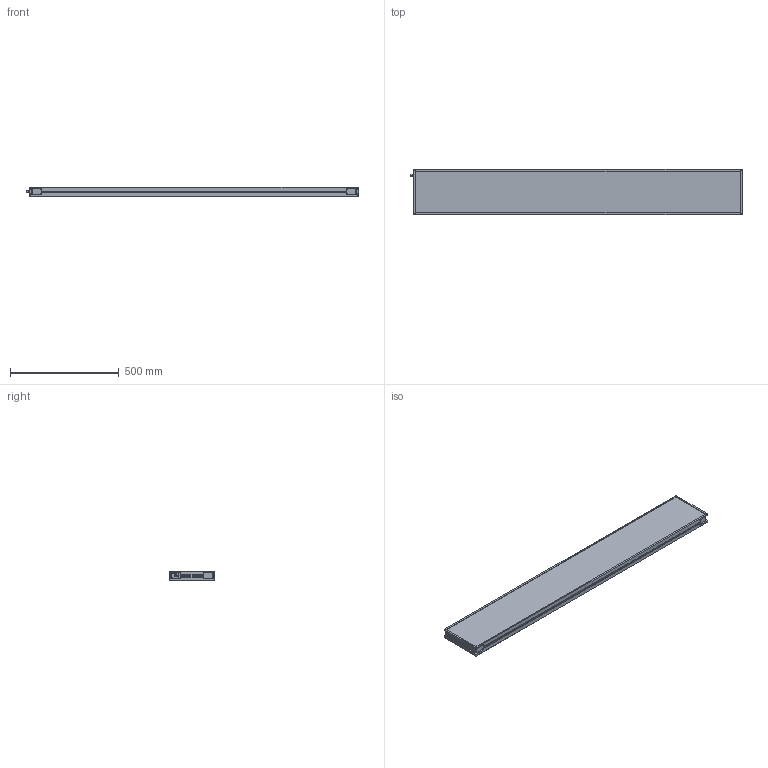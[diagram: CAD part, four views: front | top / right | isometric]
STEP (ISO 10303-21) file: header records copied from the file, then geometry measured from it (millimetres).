
FILE_DESCRIPTION (( 'STEP AP214' ), '1' );
FILE_NAME ('MBACK-xxxx-xxx-M1_CLIENT200x1500.STEP', '2022-03-31T15:57:49', ( '' ), ( '' ), 'SwSTEP 2.0', 'SolidWorks 2020', '' );
FILE_SCHEMA (( 'AUTOMOTIVE_DESIGN' ));
Length unit declared in the file: millimetre
Products named in the file (1): MBACK-xxxx-xxx-M1_CLIENT200x1500
Bounding box: 1525.9 x 208 x 45.5 mm (x, y, z)
Volume: 12982856 mm3; surface area: 855209.9 mm2
Topology: 1 solids, 1 shells, 442 faces, 1144 edges, 760 vertices
Faces by surface type: plane 249, cylinder 105, bspline 80, cone 8
Entity records: 17236 total; most frequent: CARTESIAN_POINT 6699, ORIENTED_EDGE 2288, DIRECTION 1936, EDGE_CURVE 1144, VERTEX_POINT 760, VECTOR 758, LINE 758, AXIS2_PLACEMENT_3D 589
